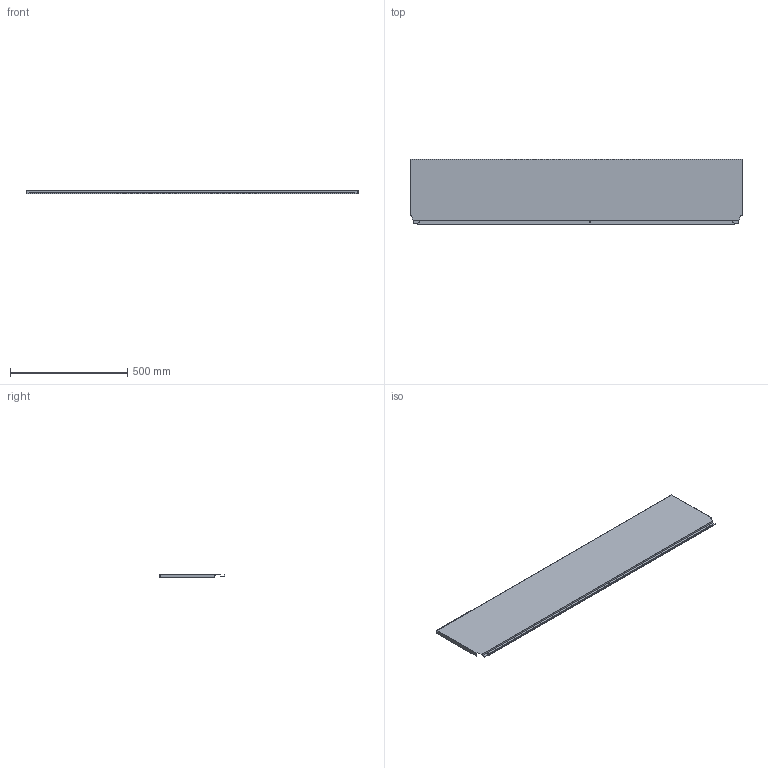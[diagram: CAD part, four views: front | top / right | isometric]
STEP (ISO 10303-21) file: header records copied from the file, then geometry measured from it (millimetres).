
FILE_DESCRIPTION (( 'STEP AP214' ), '1' );
FILE_NAME ('_DWD_XP Stahlrückwand_H278_KAB1500_S16.step', '2010-07-08T13:03:52', ( 'grass' ), ( '' ), 'SwSTEP 2.0', 'SolidWorks 2010', '' );
FILE_SCHEMA (( 'AUTOMOTIVE_DESIGN' ));
Length unit declared in the file: millimetre
Products named in the file (1): _DWD_XP Stahlrückwand_H278_KAB1500_S16
Bounding box: 1417 x 278.57 x 16 mm (x, y, z)
Volume: 389872.4 mm3; surface area: 889059.2 mm2
Topology: 1 solids, 1 shells, 46 faces, 132 edges, 88 vertices
Faces by surface type: plane 40, cylinder 6
Entity records: 1534 total; most frequent: CARTESIAN_POINT 267, ORIENTED_EDGE 264, DIRECTION 238, EDGE_CURVE 132, VECTOR 120, LINE 120, VERTEX_POINT 88, AXIS2_PLACEMENT_3D 59
